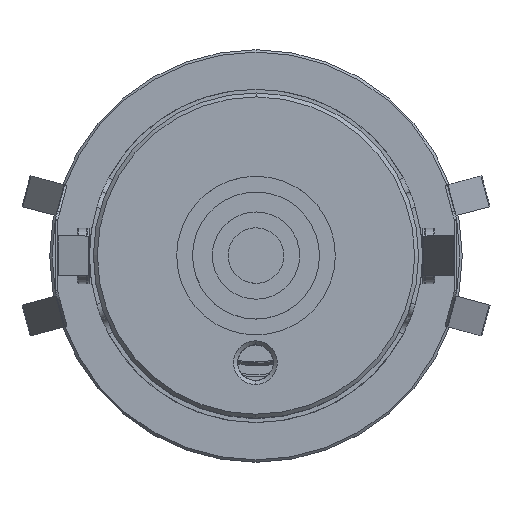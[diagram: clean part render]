
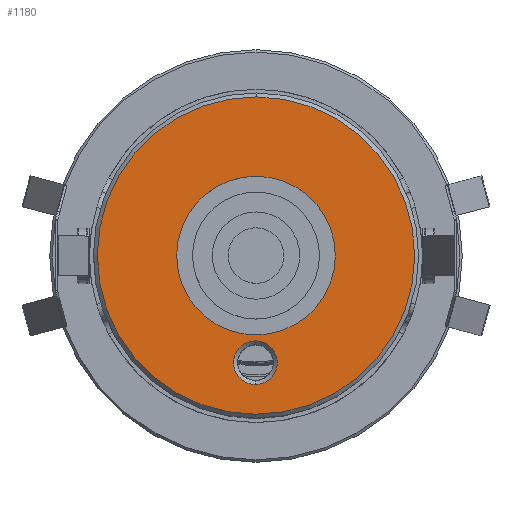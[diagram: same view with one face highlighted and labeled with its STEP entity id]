
A CAD part, top view. The second image highlights one B-rep face of the part: STEP entity #1180.
In plain terms, the highlighted planar face has unit normal (0, 0, 1).
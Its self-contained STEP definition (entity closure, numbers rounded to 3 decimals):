
#969=FACE_BOUND('',#3758,.T.);
#970=FACE_BOUND('',#3759,.T.);
#1180=ADVANCED_FACE('',(#2466,#969,#970),#24646,.T.);
#2466=FACE_OUTER_BOUND('',#3757,.T.);
#3757=EDGE_LOOP('',(#5320,#5321));
#3758=EDGE_LOOP('',(#5322,#5323));
#3759=EDGE_LOOP('',(#5324,#5325));
#5320=ORIENTED_EDGE('',*,*,#11911,.F.);
#5321=ORIENTED_EDGE('',*,*,#11884,.F.);
#5322=ORIENTED_EDGE('',*,*,#11920,.T.);
#5323=ORIENTED_EDGE('',*,*,#11874,.T.);
#5324=ORIENTED_EDGE('',*,*,#11871,.T.);
#5325=ORIENTED_EDGE('',*,*,#11923,.T.);
#11871=EDGE_CURVE('',#21144,#21143,#16277,.T.);
#11874=EDGE_CURVE('',#21147,#21146,#16279,.T.);
#11884=EDGE_CURVE('',#21158,#21161,#16284,.T.);
#11911=EDGE_CURVE('',#21161,#21158,#16295,.T.);
#11920=EDGE_CURVE('',#21146,#21147,#16300,.T.);
#11923=EDGE_CURVE('',#21143,#21144,#16302,.T.);
#16277=TRIMMED_CURVE($,#16899,(#30880),(#30881),.T.,.CARTESIAN.);
#16279=TRIMMED_CURVE($,#16901,(#30888),(#30889),.T.,.CARTESIAN.);
#16284=TRIMMED_CURVE($,#16906,(#30949),(#30950),.T.,.CARTESIAN.);
#16295=TRIMMED_CURVE($,#16918,(#31077),(#31078),.T.,.CARTESIAN.);
#16300=TRIMMED_CURVE($,#16923,(#31128),(#31129),.T.,.CARTESIAN.);
#16302=TRIMMED_CURVE($,#16925,(#31136),(#31137),.T.,.CARTESIAN.);
#16899=CIRCLE('',#26141,2.75);
#16901=CIRCLE('',#26143,10.);
#16906=CIRCLE('',#26148,20.);
#16918=CIRCLE('',#26160,20.);
#16923=CIRCLE('',#26165,10.);
#16925=CIRCLE('',#26167,2.75);
#21143=VERTEX_POINT('',#30751);
#21144=VERTEX_POINT('',#30752);
#21146=VERTEX_POINT('',#30754);
#21147=VERTEX_POINT('',#30755);
#21158=VERTEX_POINT('',#30766);
#21161=VERTEX_POINT('',#30769);
#24646=PLANE('',#26117);
#26117=AXIS2_PLACEMENT_3D('',#30443,#27818,$);
#26141=AXIS2_PLACEMENT_3D($,#30879,#27852,#27853);
#26143=AXIS2_PLACEMENT_3D($,#30887,#27856,#27857);
#26148=AXIS2_PLACEMENT_3D($,#30948,#27866,#27867);
#26160=AXIS2_PLACEMENT_3D($,#31076,#27890,#27891);
#26165=AXIS2_PLACEMENT_3D($,#31127,#27900,#27901);
#26167=AXIS2_PLACEMENT_3D($,#31135,#27904,#27905);
#27818=DIRECTION('',(0.,0.,1.));
#27852=DIRECTION('',(0.,0.,-1.));
#27853=DIRECTION('',(-0.005,-1.,0.));
#27856=DIRECTION('',(0.,0.,-1.));
#27857=DIRECTION('',(-0.005,-1.,0.));
#27866=DIRECTION('',(0.,0.,-1.));
#27867=DIRECTION('',(0.005,1.,0.));
#27890=DIRECTION('',(0.,0.,-1.));
#27891=DIRECTION('',(-0.005,-1.,0.));
#27900=DIRECTION('',(0.,0.,-1.));
#27901=DIRECTION('',(0.005,1.,0.));
#27904=DIRECTION('',(0.,0.,-1.));
#27905=DIRECTION('',(0.005,1.,0.));
#30443=CARTESIAN_POINT('',(-20.342,-20.128,25.309));
#30751=CARTESIAN_POINT('',(-0.055,-10.741,25.305));
#30752=CARTESIAN_POINT('',(-0.082,-16.241,25.307));
#30754=CARTESIAN_POINT('',(0.051,10.009,25.296));
#30755=CARTESIAN_POINT('',(-0.051,-9.991,25.304));
#30766=CARTESIAN_POINT('',(0.102,20.009,25.291));
#30769=CARTESIAN_POINT('',(-0.102,-19.991,25.309));
#30879=CARTESIAN_POINT('',(-0.069,-13.491,25.306));
#30880=CARTESIAN_POINT('',(-0.082,-16.241,25.307));
#30881=CARTESIAN_POINT('',(-0.055,-10.741,25.305));
#30887=CARTESIAN_POINT('',(0.,0.009,25.3));
#30888=CARTESIAN_POINT('',(-0.051,-9.991,25.304));
#30889=CARTESIAN_POINT('',(0.051,10.009,25.296));
#30948=CARTESIAN_POINT('',(0.,0.009,25.3));
#30949=CARTESIAN_POINT('',(0.102,20.009,25.291));
#30950=CARTESIAN_POINT('',(-0.102,-19.991,25.309));
#31076=CARTESIAN_POINT('',(0.,0.009,25.3));
#31077=CARTESIAN_POINT('',(-0.102,-19.991,25.309));
#31078=CARTESIAN_POINT('',(0.102,20.009,25.291));
#31127=CARTESIAN_POINT('',(0.,0.009,25.3));
#31128=CARTESIAN_POINT('',(0.051,10.009,25.296));
#31129=CARTESIAN_POINT('',(-0.051,-9.991,25.304));
#31135=CARTESIAN_POINT('',(-0.069,-13.491,25.306));
#31136=CARTESIAN_POINT('',(-0.055,-10.741,25.305));
#31137=CARTESIAN_POINT('',(-0.082,-16.241,25.307));
